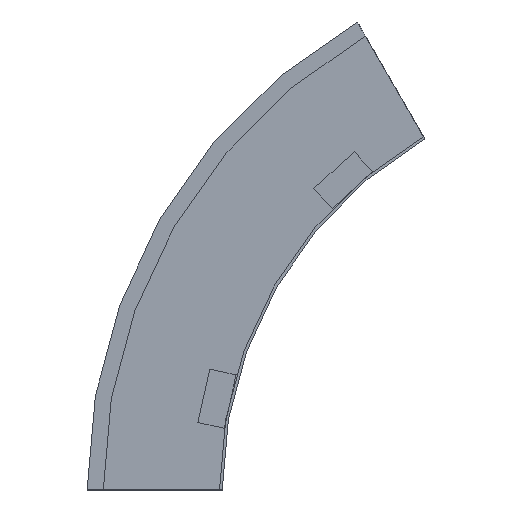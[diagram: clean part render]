
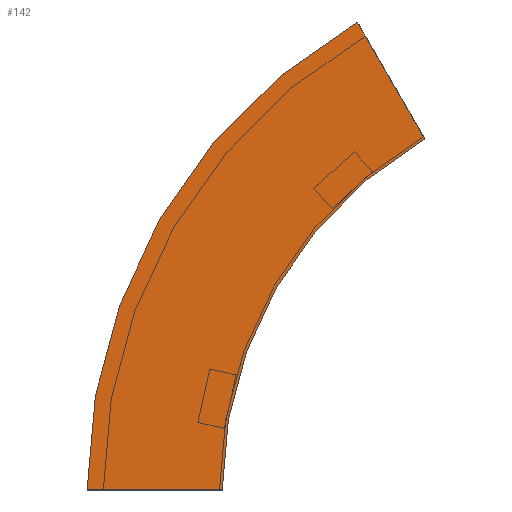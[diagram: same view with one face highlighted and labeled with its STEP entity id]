
A CAD part, left-side view. The second image highlights one B-rep face of the part: STEP entity #142.
In plain terms, the highlighted planar face has unit normal (-1, 0, 0) as drawn and (1, 0, 0) by its records, which use the part's own axes.
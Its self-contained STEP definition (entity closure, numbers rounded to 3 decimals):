
#6 = DIRECTION ( 'NONE',  ( 1., 0., 0. ) ) ;
#13 = EDGE_CURVE ( 'NONE', #546, #299, #345, .T. ) ;
#29 = CARTESIAN_POINT ( 'NONE',  ( 0., -300., 0. ) ) ;
#32 = DIRECTION ( 'NONE',  ( 1., 0., 0. ) ) ;
#46 = DIRECTION ( 'NONE',  ( 1., 0., 0. ) ) ;
#49 = CIRCLE ( 'NONE', #521, 300. ) ;
#55 = VERTEX_POINT ( 'NONE', #543 ) ;
#66 = CIRCLE ( 'NONE', #144, 400. ) ;
#69 = EDGE_CURVE ( 'NONE', #426, #55, #377, .T. ) ;
#75 = EDGE_LOOP ( 'NONE', ( #87, #123, #529, #136 ) ) ;
#87 = ORIENTED_EDGE ( 'NONE', *, *, #254, .T. ) ;
#118 = CARTESIAN_POINT ( 'NONE',  ( 0., -150., 259.808 ) ) ;
#123 = ORIENTED_EDGE ( 'NONE', *, *, #13, .F. ) ;
#127 = DIRECTION ( 'NONE',  ( 0., 1., 0. ) ) ;
#136 = ORIENTED_EDGE ( 'NONE', *, *, #69, .T. ) ;
#142 = ADVANCED_FACE ( 'NONE', ( #263 ), #266, .T. ) ;
#144 = AXIS2_PLACEMENT_3D ( 'NONE', #158, #6, #412 ) ;
#158 = CARTESIAN_POINT ( 'NONE',  ( 0., -300., 0. ) ) ;
#178 = AXIS2_PLACEMENT_3D ( 'NONE', #445, #46, #398 ) ;
#201 = CARTESIAN_POINT ( 'NONE',  ( 0., 0., 0. ) ) ;
#254 = EDGE_CURVE ( 'NONE', #55, #299, #66, .T. ) ;
#260 = VECTOR ( 'NONE', #558, 1000. ) ;
#263 = FACE_OUTER_BOUND ( 'NONE', #75, .T. ) ;
#266 = PLANE ( 'NONE',  #178 ) ;
#299 = VERTEX_POINT ( 'NONE', #323 ) ;
#323 = CARTESIAN_POINT ( 'NONE',  ( 0., -100., 346.41 ) ) ;
#331 = CARTESIAN_POINT ( 'NONE',  ( 0., 0., 0. ) ) ;
#345 = LINE ( 'NONE', #118, #539 ) ;
#377 = LINE ( 'NONE', #201, #260 ) ;
#398 = DIRECTION ( 'NONE',  ( 0., 0., -1. ) ) ;
#412 = DIRECTION ( 'NONE',  ( 0., 1., 0. ) ) ;
#426 = VERTEX_POINT ( 'NONE', #331 ) ;
#436 = DIRECTION ( 'NONE',  ( 0., 0.5, 0.866 ) ) ;
#442 = EDGE_CURVE ( 'NONE', #426, #546, #49, .T. ) ;
#445 = CARTESIAN_POINT ( 'NONE',  ( 0., 0., 0. ) ) ;
#455 = CARTESIAN_POINT ( 'NONE',  ( 0., -150., 259.808 ) ) ;
#521 = AXIS2_PLACEMENT_3D ( 'NONE', #29, #32, #127 ) ;
#529 = ORIENTED_EDGE ( 'NONE', *, *, #442, .F. ) ;
#539 = VECTOR ( 'NONE', #436, 1000. ) ;
#543 = CARTESIAN_POINT ( 'NONE',  ( 0., 100., 0. ) ) ;
#546 = VERTEX_POINT ( 'NONE', #455 ) ;
#558 = DIRECTION ( 'NONE',  ( 0., 1., 0. ) ) ;
